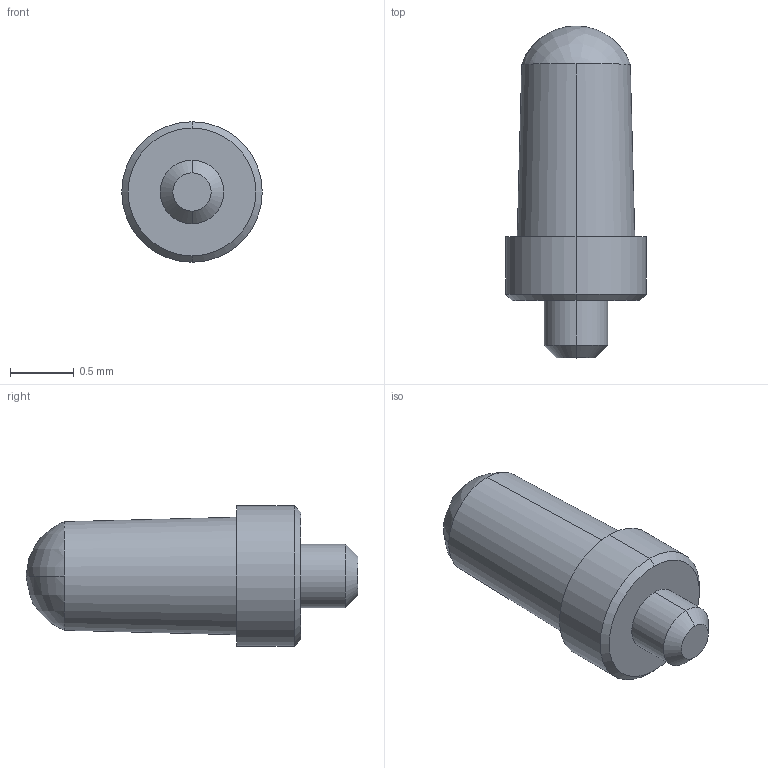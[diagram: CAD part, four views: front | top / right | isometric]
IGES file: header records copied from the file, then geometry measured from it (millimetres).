
Start section:  PTC IGES file: pin__w___any_prt.igs
Global section: file name: pin__w___any_prt.igs; native system: Pro/ENGINEER by Parametric Technology Corporation; preprocessor: 2006170; author: GRA; organization: Unknown; date: 20080630.105207; units: millimetre
Bounding box: 1.1 x 2.6 x 1.1 mm (x, y, z)
Surface area: 8.1 mm2 (no closed solid volume)
Topology: 0 solids, 0 shells, 15 faces, 60 edges, 60 vertices
Faces by surface type: revolution 12, bspline 3
